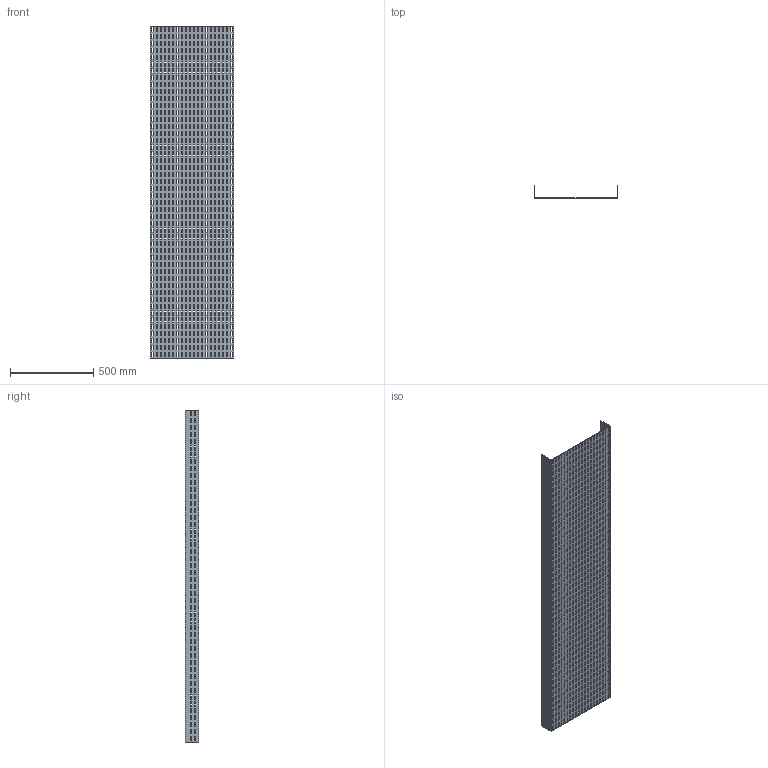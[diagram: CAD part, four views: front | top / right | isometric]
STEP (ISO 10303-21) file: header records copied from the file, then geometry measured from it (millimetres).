
FILE_DESCRIPTION (( 'STEP AP214' ), '1' );
FILE_NAME ('01F2C500.step', '2025-02-21T13:26:29', ( '' ), ( '' ), 'SwSTEP 2.0', 'SolidWorks 2023', '' );
FILE_SCHEMA (( 'AUTOMOTIVE_DESIGN' ));
Length unit declared in the file: millimetre
Products named in the file (1): 01F2C500
Bounding box: 504 x 79 x 2000 mm (x, y, z)
Volume: 3879400 mm3; surface area: 2493433 mm2
Topology: 1 solids, 1 shells, 4618 faces, 13848 edges, 9232 vertices
Faces by surface type: plane 4618
Entity records: 156983 total; most frequent: CARTESIAN_POINT 27699, ORIENTED_EDGE 27696, DIRECTION 23086, VECTOR 13848, LINE 13848, EDGE_CURVE 13848, VERTEX_POINT 9232, EDGE_LOOP 6922
